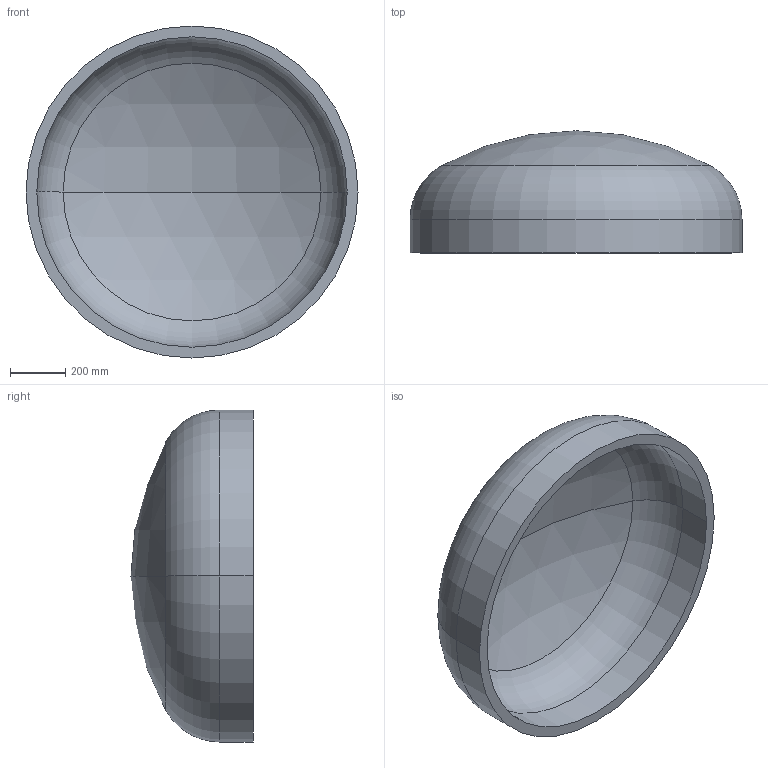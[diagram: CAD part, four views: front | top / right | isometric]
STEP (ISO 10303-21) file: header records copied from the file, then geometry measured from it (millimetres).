
FILE_DESCRIPTION (( 'STEP AP203' ), '1' );
FILE_NAME ('DIN 28013 Korbbogenform_-_Boden DIN 28013 - 1200 x 120 - I - s=39.step', '2016-07-01T09:28:11', ( '' ), ( '' ), 'SwSTEP 2.0', 'SolidWorks 2013', '' );
FILE_SCHEMA (( 'CONFIG_CONTROL_DESIGN' ));
Length unit declared in the file: millimetre
Products named in the file (1): DIN 28013 Korbbogenform_-_Boden DIN 28013 - 1200 x 120 - I - s=39
Bounding box: 1200 x 441.32 x 1200 mm (x, y, z)
Volume: 75637071.3 mm3; surface area: 4024256.9 mm2
Topology: 1 solids, 1 shells, 13 faces, 24 edges, 14 vertices
Faces by surface type: torus 4, cylinder 4, sphere 4, plane 1
Entity records: 407 total; most frequent: DIRECTION 72, CARTESIAN_POINT 52, ORIENTED_EDGE 48, AXIS2_PLACEMENT_3D 34, EDGE_CURVE 24, CIRCLE 20, EDGE_LOOP 14, VERTEX_POINT 14
